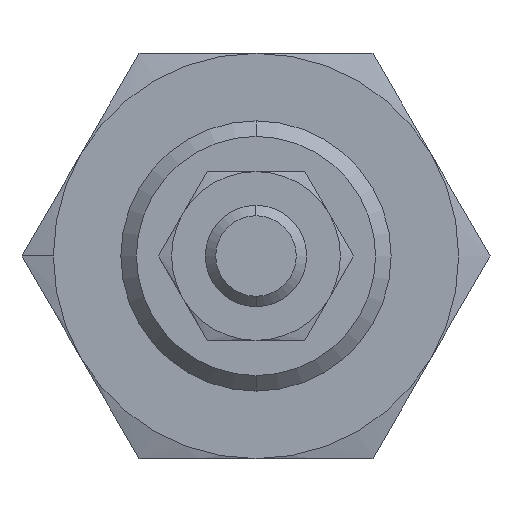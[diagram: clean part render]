
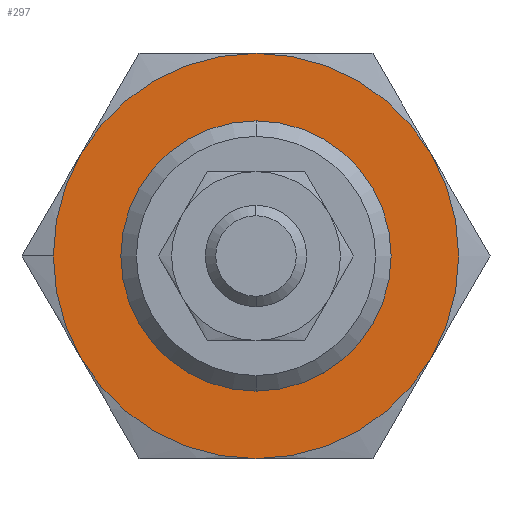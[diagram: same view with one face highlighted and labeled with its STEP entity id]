
A CAD part, left-side view. The second image highlights one B-rep face of the part: STEP entity #297.
In plain terms, the highlighted planar face has unit normal (-1, 0, 0).
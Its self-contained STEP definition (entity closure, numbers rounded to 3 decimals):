
#8 = CARTESIAN_POINT ( 'NONE',  ( -13.5, 10.392, -6. ) ) ;
#114 = DIRECTION ( 'NONE',  ( 0., 1., 0. ) ) ;
#173 = AXIS2_PLACEMENT_3D ( 'NONE', #1625, #4274, #2321 ) ;
#187 = CARTESIAN_POINT ( 'NONE',  ( -13.5, 0., 0. ) ) ;
#211 = DIRECTION ( 'NONE',  ( 0., 1., 0. ) ) ;
#297 = ADVANCED_FACE ( 'NONE', ( #2914, #4254 ), #2977, .T. ) ;
#383 = EDGE_CURVE ( 'NONE', #4066, #2664, #1284, .T. ) ;
#384 = VERTEX_POINT ( 'NONE', #1646 ) ;
#523 = VERTEX_POINT ( 'NONE', #4183 ) ;
#540 = CIRCLE ( 'NONE', #2472, 12. ) ;
#569 = ORIENTED_EDGE ( 'NONE', *, *, #383, .F. ) ;
#606 = AXIS2_PLACEMENT_3D ( 'NONE', #1266, #2603, #2583 ) ;
#647 = CARTESIAN_POINT ( 'NONE',  ( -13.5, 0., -12. ) ) ;
#685 = CIRCLE ( 'NONE', #2131, 12. ) ;
#695 = VERTEX_POINT ( 'NONE', #8 ) ;
#831 = CIRCLE ( 'NONE', #1383, 8. ) ;
#857 = DIRECTION ( 'NONE',  ( 0., 1., 0. ) ) ;
#872 = ORIENTED_EDGE ( 'NONE', *, *, #3153, .F. ) ;
#1048 = DIRECTION ( 'NONE',  ( 0., 1., 0. ) ) ;
#1115 = DIRECTION ( 'NONE',  ( 1., 0., 0. ) ) ;
#1124 = DIRECTION ( 'NONE',  ( 1., 0., 0. ) ) ;
#1157 = EDGE_CURVE ( 'NONE', #1263, #523, #4033, .T. ) ;
#1263 = VERTEX_POINT ( 'NONE', #3285 ) ;
#1266 = CARTESIAN_POINT ( 'NONE',  ( -13.5, 0., 0. ) ) ;
#1267 = ORIENTED_EDGE ( 'NONE', *, *, #3685, .F. ) ;
#1284 = CIRCLE ( 'NONE', #173, 12. ) ;
#1288 = EDGE_LOOP ( 'NONE', ( #2983, #2491 ) ) ;
#1313 = CARTESIAN_POINT ( 'NONE',  ( -13.5, 0., 0. ) ) ;
#1383 = AXIS2_PLACEMENT_3D ( 'NONE', #4041, #3036, #114 ) ;
#1480 = DIRECTION ( 'NONE',  ( 1., 0., 0. ) ) ;
#1489 = DIRECTION ( 'NONE',  ( 0., 1., 0. ) ) ;
#1617 = EDGE_CURVE ( 'NONE', #523, #1753, #540, .T. ) ;
#1625 = CARTESIAN_POINT ( 'NONE',  ( -13.5, 0., 0. ) ) ;
#1634 = CARTESIAN_POINT ( 'NONE',  ( -13.5, -10.392, 6. ) ) ;
#1646 = CARTESIAN_POINT ( 'NONE',  ( -13.5, 12., 0. ) ) ;
#1717 = AXIS2_PLACEMENT_3D ( 'NONE', #1866, #3222, #857 ) ;
#1753 = VERTEX_POINT ( 'NONE', #1634 ) ;
#1771 = CARTESIAN_POINT ( 'NONE',  ( -13.5, 0., 0. ) ) ;
#1866 = CARTESIAN_POINT ( 'NONE',  ( -13.5, 0., 0. ) ) ;
#1930 = ORIENTED_EDGE ( 'NONE', *, *, #3545, .F. ) ;
#2123 = ORIENTED_EDGE ( 'NONE', *, *, #2192, .F. ) ;
#2131 = AXIS2_PLACEMENT_3D ( 'NONE', #1313, #2981, #3563 ) ;
#2135 = CARTESIAN_POINT ( 'NONE',  ( -13.5, 0., 0. ) ) ;
#2192 = EDGE_CURVE ( 'NONE', #695, #384, #685, .T. ) ;
#2215 = CIRCLE ( 'NONE', #2282, 12. ) ;
#2280 = CARTESIAN_POINT ( 'NONE',  ( -13.5, 12., 0. ) ) ;
#2282 = AXIS2_PLACEMENT_3D ( 'NONE', #3067, #1115, #1048 ) ;
#2321 = DIRECTION ( 'NONE',  ( 0., 1., 0. ) ) ;
#2442 = DIRECTION ( 'NONE',  ( 0., 1., 0. ) ) ;
#2472 = AXIS2_PLACEMENT_3D ( 'NONE', #187, #1480, #211 ) ;
#2491 = ORIENTED_EDGE ( 'NONE', *, *, #3283, .T. ) ;
#2500 = AXIS2_PLACEMENT_3D ( 'NONE', #2135, #2502, #2442 ) ;
#2502 = DIRECTION ( 'NONE',  ( 1., 0., 0. ) ) ;
#2583 = DIRECTION ( 'NONE',  ( 0., 1., 0. ) ) ;
#2603 = DIRECTION ( 'NONE',  ( 1., 0., 0. ) ) ;
#2606 = DIRECTION ( 'NONE',  ( -1., 0., 0. ) ) ;
#2664 = VERTEX_POINT ( 'NONE', #647 ) ;
#2698 = CIRCLE ( 'NONE', #1717, 8. ) ;
#2815 = VERTEX_POINT ( 'NONE', #4100 ) ;
#2914 = FACE_OUTER_BOUND ( 'NONE', #3795, .T. ) ;
#2977 = PLANE ( 'NONE',  #3845 ) ;
#2981 = DIRECTION ( 'NONE',  ( 1., 0., 0. ) ) ;
#2983 = ORIENTED_EDGE ( 'NONE', *, *, #3467, .T. ) ;
#3036 = DIRECTION ( 'NONE',  ( 1., 0., 0. ) ) ;
#3044 = AXIS2_PLACEMENT_3D ( 'NONE', #1771, #1124, #1489 ) ;
#3067 = CARTESIAN_POINT ( 'NONE',  ( -13.5, 0., 0. ) ) ;
#3094 = CIRCLE ( 'NONE', #606, 12. ) ;
#3106 = VERTEX_POINT ( 'NONE', #3267 ) ;
#3153 = EDGE_CURVE ( 'NONE', #1753, #4066, #2215, .T. ) ;
#3222 = DIRECTION ( 'NONE',  ( 1., 0., 0. ) ) ;
#3258 = DIRECTION ( 'NONE',  ( 0., 1., 0. ) ) ;
#3267 = CARTESIAN_POINT ( 'NONE',  ( -13.5, 8., 0. ) ) ;
#3283 = EDGE_CURVE ( 'NONE', #3106, #2815, #2698, .T. ) ;
#3285 = CARTESIAN_POINT ( 'NONE',  ( -13.5, 10.392, 6. ) ) ;
#3381 = CARTESIAN_POINT ( 'NONE',  ( -13.5, -10.392, -6. ) ) ;
#3467 = EDGE_CURVE ( 'NONE', #2815, #3106, #831, .T. ) ;
#3545 = EDGE_CURVE ( 'NONE', #384, #1263, #3808, .T. ) ;
#3563 = DIRECTION ( 'NONE',  ( 0., 1., 0. ) ) ;
#3685 = EDGE_CURVE ( 'NONE', #2664, #695, #3094, .T. ) ;
#3795 = EDGE_LOOP ( 'NONE', ( #2123, #1267, #569, #872, #3913, #3941, #1930 ) ) ;
#3808 = CIRCLE ( 'NONE', #3044, 12. ) ;
#3845 = AXIS2_PLACEMENT_3D ( 'NONE', #2280, #2606, #3258 ) ;
#3913 = ORIENTED_EDGE ( 'NONE', *, *, #1617, .F. ) ;
#3941 = ORIENTED_EDGE ( 'NONE', *, *, #1157, .F. ) ;
#4033 = CIRCLE ( 'NONE', #2500, 12. ) ;
#4041 = CARTESIAN_POINT ( 'NONE',  ( -13.5, 0., 0. ) ) ;
#4066 = VERTEX_POINT ( 'NONE', #3381 ) ;
#4100 = CARTESIAN_POINT ( 'NONE',  ( -13.5, -8., 0. ) ) ;
#4183 = CARTESIAN_POINT ( 'NONE',  ( -13.5, 0., 12. ) ) ;
#4254 = FACE_BOUND ( 'NONE', #1288, .T. ) ;
#4274 = DIRECTION ( 'NONE',  ( 1., 0., 0. ) ) ;
